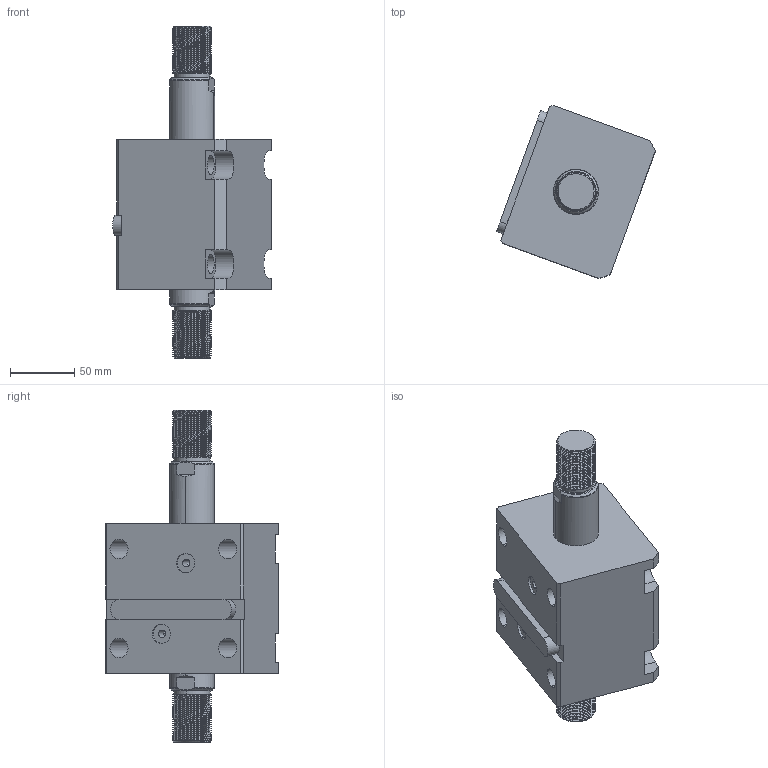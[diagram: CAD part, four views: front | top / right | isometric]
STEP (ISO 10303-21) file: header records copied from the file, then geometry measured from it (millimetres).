
FILE_DESCRIPTION (( 'STEP AP214' ), '1' );
FILE_NAME ('chtb-lwm63x35w_asm.STEP', '2018-05-22T01:29:07', ( 'Windows' ), ( 'Microsoft' ), 'SwSTEP 2.0', 'SolidWorks 2015', '' );
FILE_SCHEMA (( 'AUTOMOTIVE_DESIGN' ));
Length unit declared in the file: millimetre
Products named in the file (5): chtb-lwm63x35w_asm; CHTB-SW63X35WHSG; CHTB-LWM63X35NBT; CHTB-LA63PJ; CHTB-63QG
Assembly tree (4 placements, depth 2):
  chtb-lwm63x35w_asm
    CHTB-63QG
    CHTB-LA63PJ
    CHTB-LWM63X35NBT
    CHTB-SW63X35WHSG
Bounding box: 123.48 x 134.37 x 258 mm (x, y, z)
Volume: 1147038.8 mm3; surface area: 168044.5 mm2
Topology: 4 solids, 4 shells, 298 faces, 869 edges, 587 vertices
Faces by surface type: cylinder 203, plane 55, bspline 16, cone 12, torus 12
Entity records: 27660 total; most frequent: CARTESIAN_POINT 20506, ORIENTED_EDGE 1730, DIRECTION 1186, EDGE_CURVE 865, VERTEX_POINT 587, AXIS2_PLACEMENT_3D 440, EDGE_LOOP 326, LINE 306
